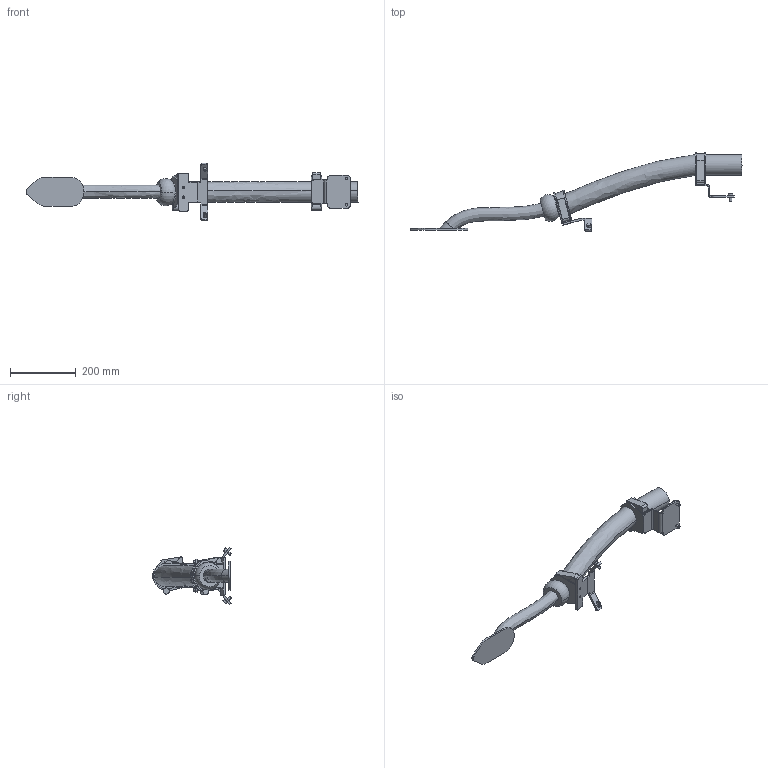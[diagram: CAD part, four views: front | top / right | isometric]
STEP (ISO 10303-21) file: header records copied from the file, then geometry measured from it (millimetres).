
FILE_DESCRIPTION (( 'STEP AP214' ), '1' );
FILE_NAME ('IRB6730-MH3_240kg-290_OC_00_LINK04_CABLE.step', '2026-05-26T09:35:23', ( '' ), ( '' ), 'SwSTEP 2.0', 'SolidWorks 2024', '' );
FILE_SCHEMA (( 'AUTOMOTIVE_DESIGN' ));
Length unit declared in the file: millimetre
Products named in the file (1): IRB6730-MH3_240kg-290_OC_00_LINK04_CABLE
Bounding box: 1007.81 x 238.88 x 174.65 mm (x, y, z)
Volume: 2859101.7 mm3; surface area: 283113.2 mm2
Topology: 1 solids, 1 shells, 282 faces, 751 edges, 484 vertices
Faces by surface type: plane 183, cylinder 87, bspline 6, cone 4, torus 2
Entity records: 15784 total; most frequent: CARTESIAN_POINT 5520, ORIENTED_EDGE 1502, DIRECTION 1490, EDGE_CURVE 751, LINE 516, VECTOR 516, AXIS2_PLACEMENT_3D 487, VERTEX_POINT 484
